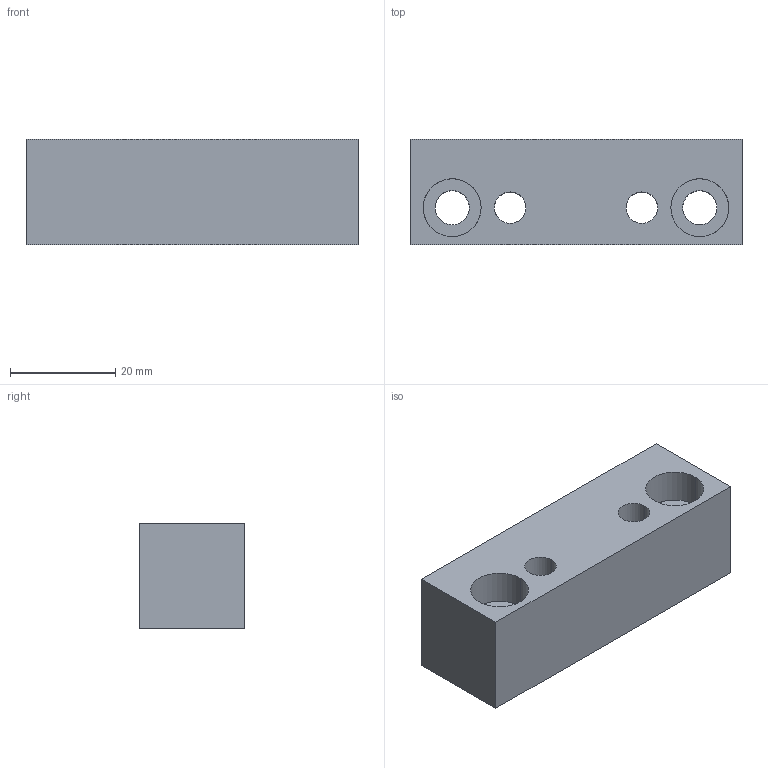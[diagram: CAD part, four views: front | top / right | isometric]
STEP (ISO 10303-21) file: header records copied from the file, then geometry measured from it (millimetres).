
FILE_DESCRIPTION(('CATIA V5 STEP Exchange'),'2;1');
FILE_NAME('C:\Users\Utente\Desktop\3D files G405\G40520063.stp','2020-04-22T09:21:25+00:00',('none'),('none'),'CATIA Version 5 Release 20 GA (IN-10)','CATIA V5 STEP AP203','none');
FILE_SCHEMA(('CONFIG_CONTROL_DESIGN'));
Length unit declared in the file: millimetre
Products named in the file (1): G40520063
Bounding box: 63 x 20 x 20 mm (x, y, z)
Surface area: 9286.8 mm2 (no closed solid volume)
Topology: 0 solids, 222 shells, 222 faces, 948 edges, 856 vertices
Faces by surface type: revolution 112, cylinder 80, plane 30
Entity records: 10636 total; most frequent: CARTESIAN_POINT 3533, DIRECTION 1122, ORIENTED_EDGE 856, EDGE_CURVE 856, VERTEX_POINT 856, AXIS2_PLACEMENT_3D 493, VECTOR 408, LINE 408
